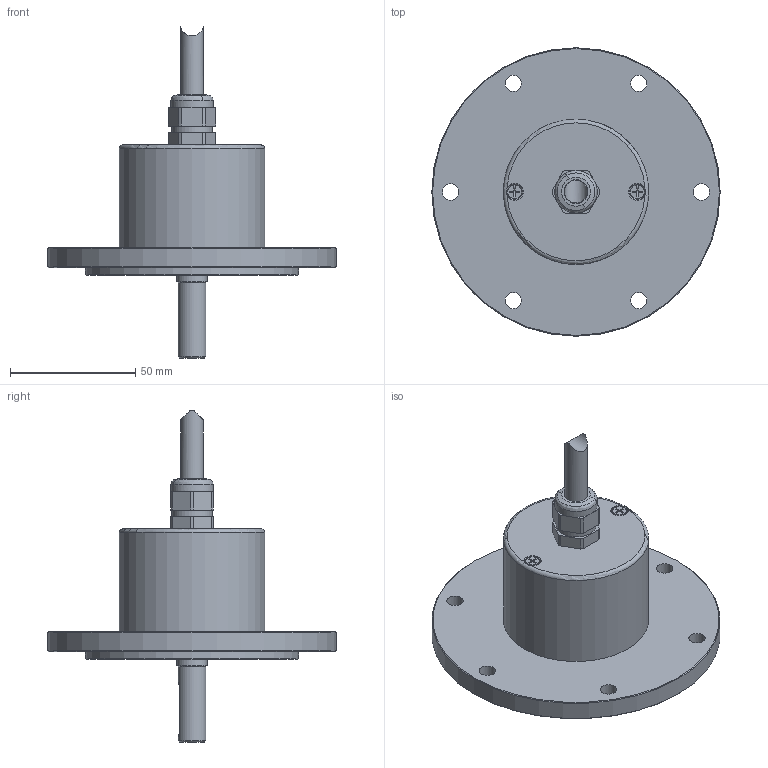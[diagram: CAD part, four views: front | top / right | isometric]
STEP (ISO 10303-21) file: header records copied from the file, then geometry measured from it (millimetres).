
FILE_DESCRIPTION((''),'2;1');
FILE_NAME('V:\Wachendorff Automation\Abteilungsübergreifende Dateien\WDG-Artikel\1\115MxxxxK2\04_Mechan_Konstruktionsunterlagen\115MxxxxK2.stp','2013-08-12T13:24:11',('jas'),(''),'Autodesk Inventor 2008','Autodesk Inventor 2008','');
FILE_SCHEMA(('AUTOMOTIVE_DESIGN { 1 0 10303 214 1 1 1 1 }'));
Length unit declared in the file: millimetre
Products named in the file (1): Bauteil47
Bounding box: 115 x 115 x 132.41 mm (x, y, z)
Volume: 152297.8 mm3; surface area: 59553.7 mm2
Topology: 9 solids, 9 shells, 333 faces, 739 edges, 451 vertices
Faces by surface type: plane 104, cylinder 69, bspline 68, cone 42, sphere 29, torus 21
Full cylindrical faces by diameter (mm): 3 x4, 5.5 x2, 9 x1, 11 x1, 11.6 x1, 12 x3, 12.7 x1, 15 x1, 16 x1, 17 x7, 18 x1, 23.4 x4, 24.8 x8, 25 x1, 27.85 x1, 28 x1, 53.5 x1, 56 x2, 56.05 x1, 58 x1, 85 x1, 115 x1
Entity records: 13098 total; most frequent: CARTESIAN_POINT 6293, DIRECTION 1394, ORIENTED_EDGE 1084, AXIS2_PLACEMENT_3D 619, EDGE_CURVE 542, EDGE_LOOP 528, VERTEX_POINT 390, CIRCLE 364
